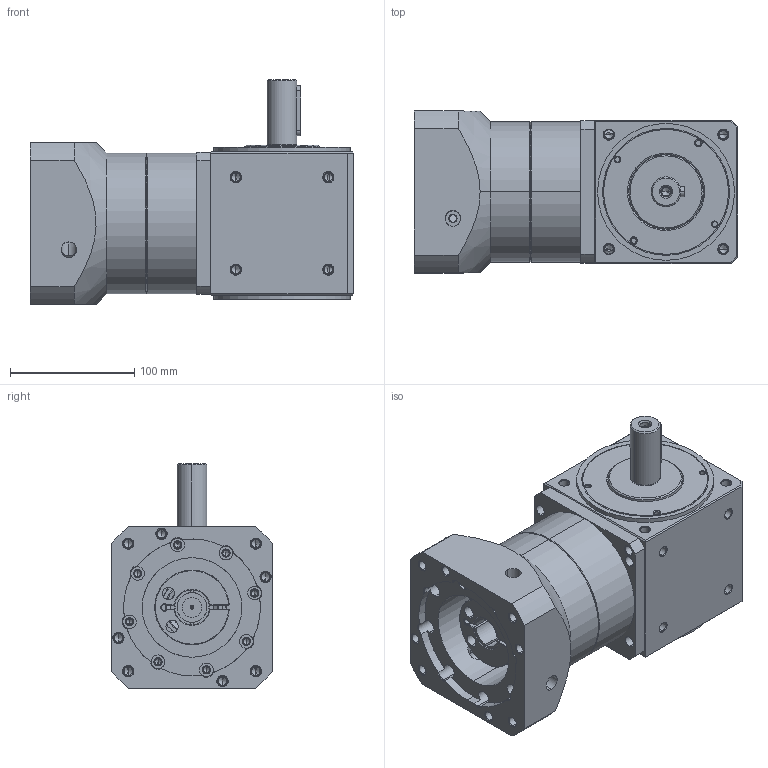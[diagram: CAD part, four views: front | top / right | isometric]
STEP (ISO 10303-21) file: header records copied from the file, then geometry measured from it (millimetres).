
FILE_DESCRIPTION (( 'STEP AP203' ), '1' );
FILE_NAME ('WS120SF-2+GNP120L1-24-110-145-M8.STEP', '2012-11-19T07:25:44', ( 'user' ), ( 'SYNNEX' ), 'SwSTEP 2.0', 'SolidWorks 2008', '' );
FILE_SCHEMA (( 'CONFIG_CONTROL_DESIGN' ));
Length unit declared in the file: millimetre
Products named in the file (1): WS120SF-2+GNP120L1-24-110-145-M8
Bounding box: 259.7 x 130 x 180.5 mm (x, y, z)
Volume: 2195195.1 mm3; surface area: 425083 mm2
Topology: 14 solids, 14 shells, 1163 faces, 2651 edges, 1558 vertices
Faces by surface type: cylinder 461, cone 408, plane 220, torus 70, bspline 4
Entity records: 34834 total; most frequent: CARTESIAN_POINT 8007, DIRECTION 6163, ORIENTED_EDGE 5158, EDGE_CURVE 2579, AXIS2_PLACEMENT_3D 2568, VERTEX_POINT 1558, CIRCLE 1408, EDGE_LOOP 1383
